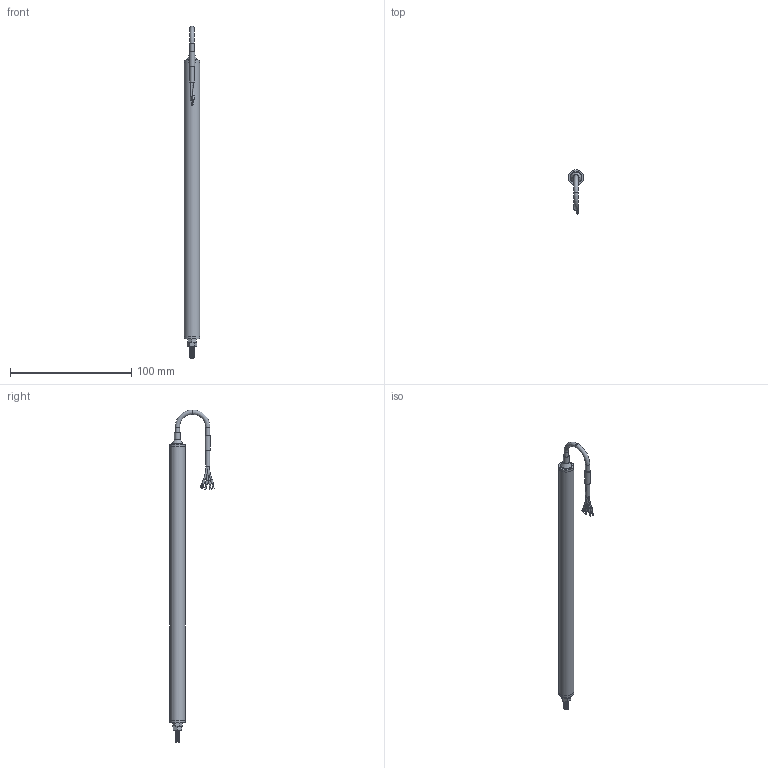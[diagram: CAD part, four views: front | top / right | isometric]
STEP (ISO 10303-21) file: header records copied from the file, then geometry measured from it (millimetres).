
FILE_DESCRIPTION(/* description */ (''),/* implementation_level */ '2;1');
FILE_NAME(/* name */ 'LPPS-12-175-A Assembly (wrapped).step',/* time_stamp */ '2023-10-10T09:59:23-04:00',/* author */ ('TSC_Grant'),/* organization */ (''),/* preprocessor_version */ 'ST-DEVELOPER v19.2',/* originating_system */ 'Autodesk Inventor 2024',/* authorisation */ '');
FILE_SCHEMA (('AUTOMOTIVE_DESIGN { 1 0 10303 214 3 1 1 }'));
Length unit declared in the file: inch
Products named in the file (4): LPPS-12-010-A Assembly (wrapped); LPPS-12-010-A Body (wrapped); LPPS-12-010-A Assembly_Simplify_1; Wire
Assembly tree (3 placements, depth 2):
  LPPS-12-010-A Assembly (wrapped)
    LPPS-12-010-A Body (wrapped)
    LPPS-12-010-A Assembly_Simplify_1
    Wire
Bounding box: 12.7 x 36.8 x 274.24 mm (x, y, z)
Volume: 29973.5 mm3; surface area: 16954.4 mm2
Topology: 13 solids, 13 shells, 133 faces, 286 edges, 190 vertices
Faces by surface type: plane 75, cylinder 44, bspline 8, torus 5, cone 1
Full cylindrical faces by diameter (mm): 1.016 x3, 1.27 x1, 1.524 x3, 1.651 x2, 3.632 x6, 3.937 x8, 4.191 x1, 4.445 x1, 4.826 x1, 12.7 x3
Entity records: 5483 total; most frequent: CARTESIAN_POINT 2222, DIRECTION 619, ORIENTED_EDGE 572, EDGE_CURVE 286, AXIS2_PLACEMENT_3D 236, VERTEX_POINT 190, EDGE_LOOP 150, LINE 147
